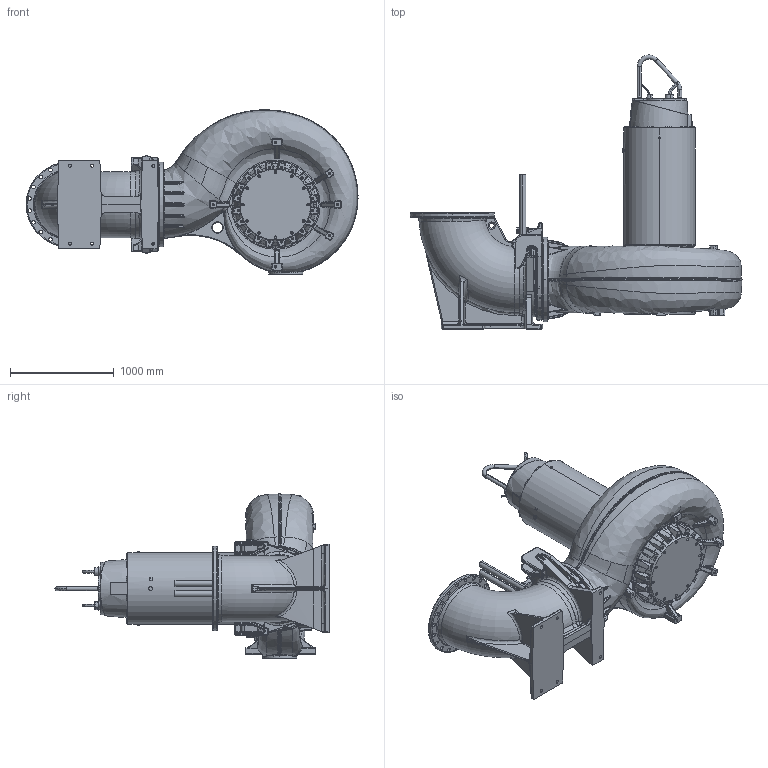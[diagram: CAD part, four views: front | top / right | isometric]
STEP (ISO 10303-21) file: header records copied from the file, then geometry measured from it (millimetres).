
FILE_DESCRIPTION (( 'STEP AP214' ), '1' );
FILE_NAME ('PE6_XFP600X-SK3_WET 2guide_B_NG2.STEP', '2017-03-30T08:38:08', ( '' ), ( '' ), 'SwSTEP 2.0', 'SolidWorks 2017', '' );
FILE_SCHEMA (( 'AUTOMOTIVE_DESIGN' ));
Length unit declared in the file: millimetre
Products named in the file (1): PE6_XFP600X-SK3_WET 2guide_B_NG2
Bounding box: 3196.1 x 2638.31 x 1582.72 mm (x, y, z)
Volume: 2144528740.9 mm3; surface area: 20715831 mm2
Topology: 4 solids, 38 shells, 4820 faces, 11722 edges, 6698 vertices
Faces by surface type: bspline 1553, cylinder 1305, plane 906, torus 412, cone 398, sphere 246
Entity records: 298351 total; most frequent: CARTESIAN_POINT 146068, ORIENTED_EDGE 22542, DIRECTION 18490, EDGE_CURVE 11271, AXIS2_PLACEMENT_3D 7693, VERTEX_POINT 6688, EDGE_LOOP 5133, UNCERTAINTY_MEASURE_WITH_UNIT 4826
